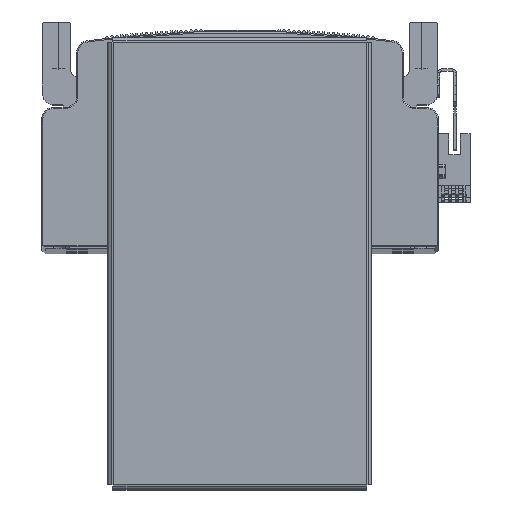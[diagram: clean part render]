
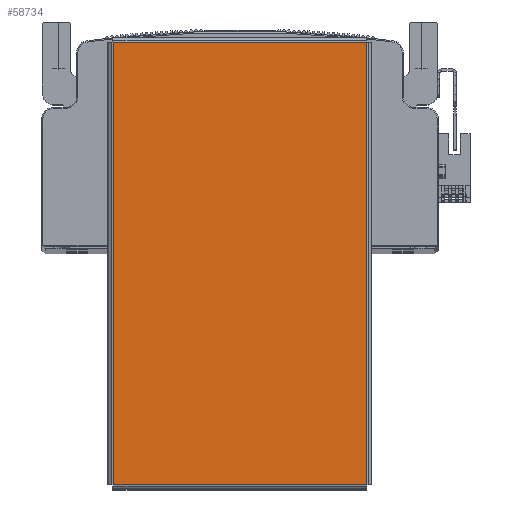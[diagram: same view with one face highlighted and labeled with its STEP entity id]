
A CAD part, top view. The second image highlights one B-rep face of the part: STEP entity #58734.
In plain terms, the highlighted planar face has unit normal (0, 0, 1) as drawn and (0, -1, 0) by its records, which use the part's own axes.
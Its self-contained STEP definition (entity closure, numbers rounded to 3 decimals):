
#548 = ORIENTED_EDGE ( 'NONE', *, *, #13583, .T. ) ;
#584 = ORIENTED_EDGE ( 'NONE', *, *, #13600, .T. ) ;
#592 = ORIENTED_EDGE ( 'NONE', *, *, #13680, .T. ) ;
#600 = ORIENTED_EDGE ( 'NONE', *, *, #13589, .T. ) ;
#13583 = EDGE_CURVE ( 'NONE', #27432, #27410, #48677, .T. ) ;
#13589 = EDGE_CURVE ( 'NONE', #27410, #27436, #48682, .T. ) ;
#13600 = EDGE_CURVE ( 'NONE', #27381, #27432, #48766, .T. ) ;
#13680 = EDGE_CURVE ( 'NONE', #27436, #27381, #48927, .T. ) ;
#14773 = CARTESIAN_POINT ( 'NONE',  ( -94.763, -1.5, 54.363 ) ) ;
#14836 = CARTESIAN_POINT ( 'NONE',  ( 94.763, -1.5, 54.363 ) ) ;
#14844 = CARTESIAN_POINT ( 'NONE',  ( 94.763, -1.5, -54.363 ) ) ;
#14882 = CARTESIAN_POINT ( 'NONE',  ( -94.763, -1.5, -54.363 ) ) ;
#27381 = VERTEX_POINT ( 'NONE', #14773 ) ;
#27410 = VERTEX_POINT ( 'NONE', #14844 ) ;
#27432 = VERTEX_POINT ( 'NONE', #14882 ) ;
#27436 = VERTEX_POINT ( 'NONE', #14836 ) ;
#28238 = CARTESIAN_POINT ( 'NONE',  ( 0., -1.5, 0. ) ) ;
#28257 = PLANE ( 'NONE',  #68105 ) ;
#28272 = DIRECTION ( 'NONE',  ( 0., 1., 0. ) ) ;
#28277 = DIRECTION ( 'NONE',  ( 0., 0., 1. ) ) ;
#38602 = CARTESIAN_POINT ( 'NONE',  ( -94.793, -1.5, -54.363 ) ) ;
#38625 = CARTESIAN_POINT ( 'NONE',  ( 94.763, -1.5, -54.393 ) ) ;
#38628 = DIRECTION ( 'NONE',  ( 1., 0., 0. ) ) ;
#38634 = DIRECTION ( 'NONE',  ( 0., 0., 1. ) ) ;
#38652 = CARTESIAN_POINT ( 'NONE',  ( -94.763, -1.5, 54.393 ) ) ;
#38677 = DIRECTION ( 'NONE',  ( 0., 0., -1. ) ) ;
#48677 = LINE ( 'NONE', #38602, #48720 ) ;
#48679 = VECTOR ( 'NONE', #38634, 1000. ) ;
#48682 = LINE ( 'NONE', #38625, #48679 ) ;
#48720 = VECTOR ( 'NONE', #38628, 1000. ) ;
#48766 = LINE ( 'NONE', #38652, #48820 ) ;
#48820 = VECTOR ( 'NONE', #38677, 1000. ) ;
#48927 = LINE ( 'NONE', #49599, #48998 ) ;
#48998 = VECTOR ( 'NONE', #49585, 1000. ) ;
#49585 = DIRECTION ( 'NONE',  ( -1., 0., 0. ) ) ;
#49599 = CARTESIAN_POINT ( 'NONE',  ( 94.793, -1.5, 54.363 ) ) ;
#52655 = EDGE_LOOP ( 'NONE', ( #592, #584, #548, #600 ) ) ;
#58734 = ADVANCED_FACE ( 'NONE', ( #69177 ), #28257, .F. ) ;
#68105 = AXIS2_PLACEMENT_3D ( 'NONE', #28238, #28272, #28277 ) ;
#69177 = FACE_OUTER_BOUND ( 'NONE', #52655, .T. ) ;
